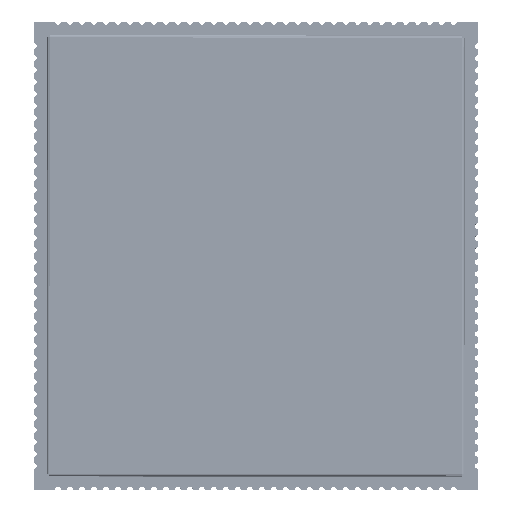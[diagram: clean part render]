
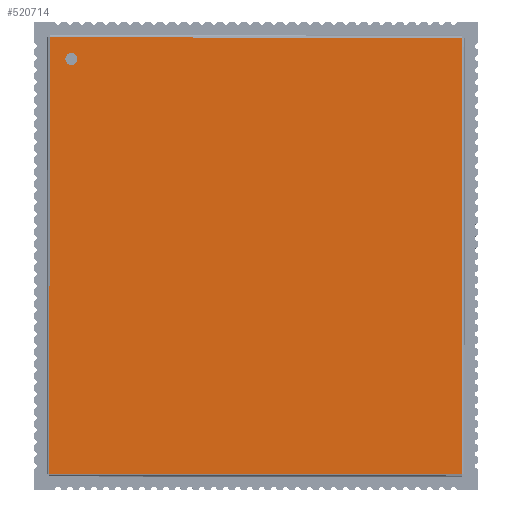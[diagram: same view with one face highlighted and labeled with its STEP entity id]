
A CAD part, top view. The second image highlights one B-rep face of the part: STEP entity #520714.
In plain terms, the highlighted planar face has unit normal (0, 0, 1) as drawn and (0, 1, 0) by its records, which use the part's own axes.
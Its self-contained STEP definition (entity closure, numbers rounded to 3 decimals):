
#518875=DIRECTION('',(0.,0.,1.));
#518876=VECTOR('',#518875,36.4);
#518877=CARTESIAN_POINT('',(17.2,0.2,-18.2));
#518878=LINE('',#518877,#518876);
#518905=CARTESIAN_POINT('',(-15.4,0.2,-16.4));
#518906=DIRECTION('',(0.,1.,0.));
#518907=DIRECTION('',(-1.,0.,0.));
#518908=AXIS2_PLACEMENT_3D('',#518905,#518906,#518907);
#518913=CARTESIAN_POINT('',(-15.4,0.2,-16.4));
#518914=DIRECTION('',(0.,1.,0.));
#518915=DIRECTION('',(1.,0.,0.));
#518916=AXIS2_PLACEMENT_3D('',#518913,#518914,#518915);
#518936=DIRECTION('',(-1.,0.,0.));
#518937=VECTOR('',#518936,34.4);
#518938=CARTESIAN_POINT('',(17.2,0.2,18.2));
#518939=LINE('',#518938,#518937);
#519049=DIRECTION('',(0.,0.,-1.));
#519050=VECTOR('',#519049,36.4);
#519051=CARTESIAN_POINT('',(-17.2,0.2,18.2));
#519052=LINE('',#519051,#519050);
#519094=DIRECTION('',(1.,0.,0.));
#519095=VECTOR('',#519094,34.4);
#519096=CARTESIAN_POINT('',(-17.2,0.2,-18.2));
#519097=LINE('',#519096,#519095);
#519331=CARTESIAN_POINT('',(-17.2,0.2,18.2));
#519332=VERTEX_POINT('',#519331);
#519333=CARTESIAN_POINT('',(17.2,0.2,18.2));
#519334=VERTEX_POINT('',#519333);
#519343=CARTESIAN_POINT('',(17.2,0.2,-18.2));
#519344=VERTEX_POINT('',#519343);
#519345=CARTESIAN_POINT('',(-17.2,0.2,-18.2));
#519346=VERTEX_POINT('',#519345);
#519575=CARTESIAN_POINT('',(-15.9,0.2,-16.4));
#519576=CARTESIAN_POINT('',(-14.9,0.2,-16.4));
#519577=VERTEX_POINT('',#519575);
#519578=VERTEX_POINT('',#519576);
#520694=CARTESIAN_POINT('',(0.,0.2,0.));
#520695=DIRECTION('',(0.,1.,0.));
#520696=DIRECTION('',(1.,0.,0.));
#520697=AXIS2_PLACEMENT_3D('',#520694,#520695,#520696);
#520698=PLANE('',#520697);
#520699=ORIENTED_EDGE('',*,*,#520686,.T.);
#520701=ORIENTED_EDGE('',*,*,#520700,.T.);
#520703=ORIENTED_EDGE('',*,*,#520702,.T.);
#520705=ORIENTED_EDGE('',*,*,#520704,.T.);
#520706=EDGE_LOOP('',(#520699,#520701,#520703,#520705));
#520707=FACE_OUTER_BOUND('',#520706,.F.);
#520709=ORIENTED_EDGE('',*,*,#520708,.T.);
#520711=ORIENTED_EDGE('',*,*,#520710,.T.);
#520712=EDGE_LOOP('',(#520709,#520711));
#520713=FACE_BOUND('',#520712,.F.);
#518909=CIRCLE('',#518908,0.5);
#518917=CIRCLE('',#518916,0.5);
#520686=EDGE_CURVE('',#519344,#519334,#518878,.T.);
#520700=EDGE_CURVE('',#519334,#519332,#518939,.T.);
#520702=EDGE_CURVE('',#519332,#519346,#519052,.T.);
#520704=EDGE_CURVE('',#519346,#519344,#519097,.T.);
#520708=EDGE_CURVE('',#519577,#519578,#518909,.T.);
#520710=EDGE_CURVE('',#519578,#519577,#518917,.T.);
#520714=ADVANCED_FACE('',(#520707,#520713),#520698,.T.);
